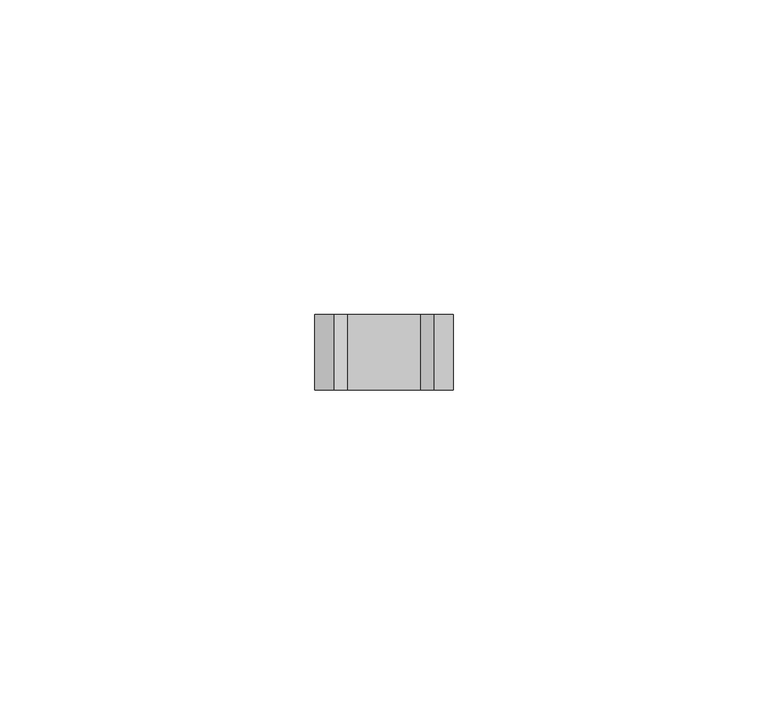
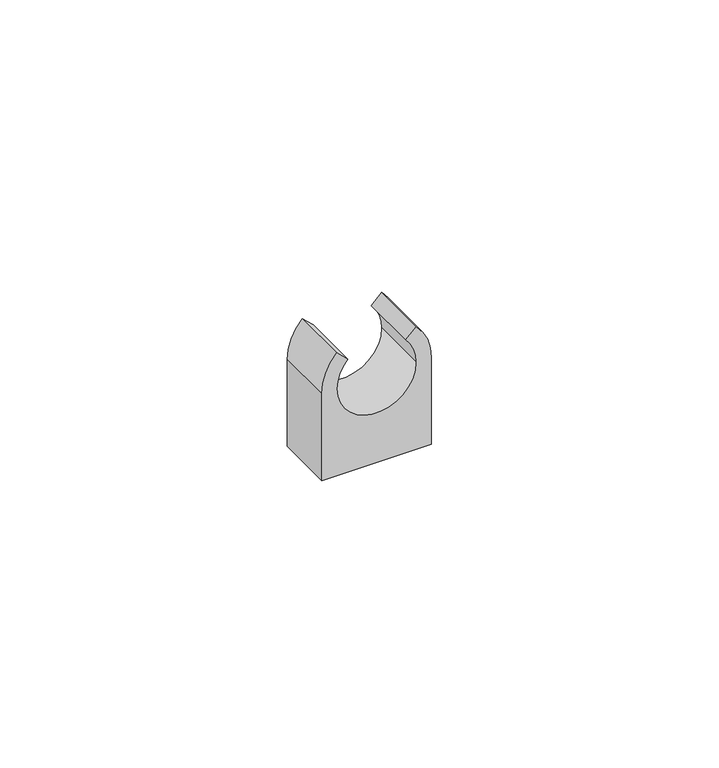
"""IFC4 building model written with IfcOpenShell, lengths in millimetres: cable carrier fitting geometry."""

import ifcopenshell
import ifcopenshell.guid

model = None  # the IFC model being written
_history = None  # IfcOwnerHistory: only IFC2X3 demands one
_inside = {}  # id of a spatial element -> (the spatial element, [elements in it])
_under = {}  # id of a project, library or spatial element -> (it, [spatial elements below it])
_declared = {}  # id of a project -> (the project, [libraries it declares])
_typed = {}  # id of a type object -> (the type object, [elements of that type])
_made_of = {}  # id of a material, layer set ... -> (it, [elements and type objects made of it])


def new_model(schema):
    """Start an empty IFC model of exactly this schema.

    Asked for "IFC4X3", IfcOpenShell would pick the latest addendum, in which some entities
    have other attributes; the version numbers below select the first issue.
    IFC2X3 requires an IfcOwnerHistory on every rooted entity: one is made here for all.
    """
    global model, _history
    if schema == "IFC4X3":
        model = ifcopenshell.file(schema_version=(4, 3, 0, 0))
    else:
        model = ifcopenshell.file(schema=schema)
    _inside.clear()
    _under.clear()
    _declared.clear()
    _typed.clear()
    _made_of.clear()
    _history = None
    if model.schema == "IFC2X3":
        org = make("IfcOrganization", Name="unknown")
        user = make(
            "IfcPersonAndOrganization",
            ThePerson=make("IfcPerson", FamilyName="unknown"),
            TheOrganization=org,
        )
        app = make(
            "IfcApplication",
            ApplicationDeveloper=org,
            Version="unknown",
            ApplicationFullName="unknown",
            ApplicationIdentifier="unknown",
        )
        _history = make(
            "IfcOwnerHistory",
            OwningUser=user,
            OwningApplication=app,
            ChangeAction="ADDED",
            CreationDate=0,
        )
    return model


def make(cls, **values):
    """One entity of the class cls with the attributes given. An attribute that is None is left unset."""
    return model.create_entity(
        cls, **{name: value for name, value in values.items() if value is not None}
    )


def rooted(cls, **values):
    """An entity with a GlobalId (a new one), such as an element, a storey or a relation."""
    return make(cls, GlobalId=ifcopenshell.guid.new(), OwnerHistory=_history, **values)


def si_unit(unit_type, name, prefix=None):
    """IfcSIUnit, for example si_unit("LENGTHUNIT", "METRE", prefix="MILLI")."""
    return make("IfcSIUnit", UnitType=unit_type, Prefix=prefix, Name=name)


def assignment(units):
    """IfcUnitAssignment: the units of a project."""
    return None if units is None else make("IfcUnitAssignment", Units=units)


def point(xyz):
    """IfcCartesianPoint."""
    return None if xyz is None else make("IfcCartesianPoint", Coordinates=xyz)


def direction(xyz):
    """IfcDirection."""
    return None if xyz is None else make("IfcDirection", DirectionRatios=xyz)


def frame(location, z_axis=None, x_axis=None):
    """IfcAxis2Placement3D, a coordinate frame: its origin and axes. An axis left out is left unset."""
    return make(
        "IfcAxis2Placement3D",
        Location=point(location),
        Axis=direction(z_axis),
        RefDirection=direction(x_axis),
    )


def frame_2d(location, x_axis=None):
    """IfcAxis2Placement2D, a coordinate frame in the plane: its origin and x axis."""
    return make(
        "IfcAxis2Placement2D", Location=point(location), RefDirection=direction(x_axis)
    )


def origin():
    """The frame at (0, 0, 0) with its axes left unset."""
    return frame((0.0, 0.0, 0.0))


def place(relative_to, where):
    """IfcLocalPlacement: puts the frame where relative to a parent placement (None: the world)."""
    return make(
        "IfcLocalPlacement", PlacementRelTo=relative_to, RelativePlacement=where
    )


def context(
    kind, dimensions, precision=None, world=None, true_north=None, identifier=None
):
    """IfcGeometricRepresentationContext, for example the 3D "Model" context."""
    return make(
        "IfcGeometricRepresentationContext",
        ContextIdentifier=identifier,
        ContextType=kind,
        CoordinateSpaceDimension=dimensions,
        Precision=precision,
        WorldCoordinateSystem=world,
        TrueNorth=true_north,
    )


def project(units=None, contexts=None):
    """IfcProject with its units and contexts."""
    return rooted(
        "IfcProject",
        Name="project",
        RepresentationContexts=contexts,
        UnitsInContext=assignment(units),
    )


def spatial(cls, under=None, at=None, **own):
    """A site, building, storey or space (cls), placed at a placement, below another one or the project."""
    s = rooted(cls, ObjectPlacement=at, **own)
    if under is not None:
        _under.setdefault(under.id(), (under, []))[1].append(s)
    return s


def polyline(points):
    """IfcPolyline through the points."""
    return make("IfcPolyline", Points=[point(p) for p in points])


def circle_curve(where, radius):
    """IfcCircle in the frame where."""
    return make("IfcCircle", Position=where, Radius=radius)


def trimmed(basis, trim1, trim2, sense, master):
    """IfcTrimmedCurve: the piece of a basis curve between two trims."""
    return make(
        "IfcTrimmedCurve",
        BasisCurve=basis,
        Trim1=trim1,
        Trim2=trim2,
        SenseAgreement=sense,
        MasterRepresentation=master,
    )


def segment(curve, same_sense, transition):
    """IfcCompositeCurveSegment."""
    return make(
        "IfcCompositeCurveSegment",
        Transition=transition,
        SameSense=same_sense,
        ParentCurve=curve,
    )


def composite_curve(segments, self_intersect=None):
    """IfcCompositeCurve: segments joined end to end."""
    return make("IfcCompositeCurve", Segments=segments, SelfIntersect=self_intersect)


def outline(outer, holes=None, kind="AREA"):
    """IfcArbitraryClosedProfileDef: a profile drawn as a closed curve; with holes, ...WithVoids."""
    if holes is None:
        return make("IfcArbitraryClosedProfileDef", ProfileType=kind, OuterCurve=outer)
    return make(
        "IfcArbitraryProfileDefWithVoids",
        ProfileType=kind,
        OuterCurve=outer,
        InnerCurves=holes,
    )


def extrude(swept, where, along, depth):
    """IfcExtrudedAreaSolid: the profile swept, set in the frame where, extruded along a direction by depth."""
    return make(
        "IfcExtrudedAreaSolid",
        SweptArea=swept,
        Position=where,
        ExtrudedDirection=direction(along),
        Depth=depth,
    )


def shape(context_of_items, identifier, shape_type, items):
    """IfcShapeRepresentation: the items that make up one representation, for example the "Body"."""
    return make(
        "IfcShapeRepresentation",
        ContextOfItems=context_of_items,
        RepresentationIdentifier=identifier,
        RepresentationType=shape_type,
        Items=items,
    )


def source(mapping_origin, context_of_items, identifier, shape_type, items):
    """IfcRepresentationMap: a shape defined once, which mapped items show again and again."""
    return make(
        "IfcRepresentationMap",
        MappingOrigin=mapping_origin,
        MappedRepresentation=shape(context_of_items, identifier, shape_type, items),
    )


def transform(
    local_origin,
    x_axis=None,
    y_axis=None,
    z_axis=None,
    scale=None,
    scale2=None,
    scale3=None,
    uniform=True,
):
    """IfcCartesianTransformationOperator3D, or its non-uniform kind. x_axis, y_axis, z_axis: its Axis1, 2, 3."""
    if uniform:
        return make(
            "IfcCartesianTransformationOperator3D",
            Axis1=direction(x_axis),
            Axis2=direction(y_axis),
            LocalOrigin=point(local_origin),
            Scale=scale,
            Axis3=direction(z_axis),
        )
    return make(
        "IfcCartesianTransformationOperator3DnonUniform",
        Axis1=direction(x_axis),
        Axis2=direction(y_axis),
        LocalOrigin=point(local_origin),
        Scale=scale,
        Axis3=direction(z_axis),
        Scale2=scale2,
        Scale3=scale3,
    )


def mapped(mapping_source, mapping_target):
    """IfcMappedItem: shows the shape of a source again, moved by a transform."""
    return make(
        "IfcMappedItem", MappingSource=mapping_source, MappingTarget=mapping_target
    )


def made_of(thing, what):
    """Note that an element or type object is made of a material, layer set ...; save() writes the relation."""
    if what is not None:
        _made_of.setdefault(what.id(), (what, []))[1].append(thing)
    return thing


def element(
    cls,
    number,
    at=None,
    inside=None,
    cuts=None,
    type_object=None,
    material=None,
    context=None,
    identifier="Body",
    shape_type=None,
    held_by="IfcProductDefinitionShape",
    body=None,
    shapes=None,
    **own,
):
    """One element of the class cls, such as IfcWall. Its Tag is "e" and its number.

    at: its placement. inside: the storey or other place that contains it. cuts: it is an
    opening in that element (IfcRelVoidsElement). A single representation is given by context,
    identifier, shape_type and body (its items); several are given by shapes. held_by: the class
    of the entity that holds the representations. save() writes the other relations.
    """
    e = rooted(cls, Tag="e%d" % number, ObjectPlacement=at, **own)
    if body is not None:
        shapes = [shape(context, identifier, shape_type, body)]
    if shapes is not None:
        e.Representation = make(held_by, Representations=shapes)
    if inside is not None:
        _inside.setdefault(inside.id(), (inside, []))[1].append(e)
    if cuts is not None:
        rooted(
            "IfcRelVoidsElement", RelatingBuildingElement=cuts, RelatedOpeningElement=e
        )
    if type_object is not None:
        _typed.setdefault(type_object.id(), (type_object, []))[1].append(e)
    return made_of(e, material)


def aggregate(whole, parts):
    """IfcRelAggregates: a whole, such as a stair, and the parts it consists of."""
    return rooted("IfcRelAggregates", RelatingObject=whole, RelatedObjects=parts)


def save(model, path):
    """Write the relations noted so far, then the file.

    IfcRelAggregates (storeys below a building ...), IfcRelContainedInSpatialStructure (elements
    in a storey), IfcRelDefinesByType, IfcRelAssociatesMaterial and IfcRelDeclares: one each for
    every whole, place, type object, material and project.
    """
    for whole, parts in _under.values():
        aggregate(whole, parts)
    for where, things in _inside.values():
        rooted(
            "IfcRelContainedInSpatialStructure",
            RelatedElements=things,
            RelatingStructure=where,
        )
    for kind, things in _typed.values():
        rooted("IfcRelDefinesByType", RelatedObjects=things, RelatingType=kind)
    for what, things in _made_of.values():
        rooted("IfcRelAssociatesMaterial", RelatedObjects=things, RelatingMaterial=what)
    for by, libraries in _declared.values():
        rooted("IfcRelDeclares", RelatingContext=by, RelatedDefinitions=libraries)
    model.write(path)


def cable_carrier_fitting_0964ab42(model_context):
    return source(origin(), model_context, "Body", "SweptSolid", [
        extrude(outline(composite_curve([segment(polyline([(0.0, -11.0), (0.0, 11.0), (18.5, 11.0)]), True, "CONTINUOUS"), segment(trimmed(circle_curve(frame_2d((18.5, 0.0)), 11.0), [point((18.5, 11.0))], [point((26.0498344, 8.0))], False, "CARTESIAN"), True, "CONTINUOUS"), segment(polyline([(26.0498344, 8.0), (23.9907887, 5.8181818)]), True, "CONTINUOUS"), segment(trimmed(circle_curve(frame_2d((18.5, 0.0)), 8.0), [point((23.9907887, 5.8181818))], [point((18.5, 8.0))], True, "CARTESIAN"), True, "CONTINUOUS"), segment(trimmed(circle_curve(frame_2d((18.5, 0.0)), 8.0), [point((18.5, 8.0))], [point((18.5, -8.0))], True, "CARTESIAN"), True, "CONTINUOUS"), segment(trimmed(circle_curve(frame_2d((18.5, 0.0)), 8.0), [point((18.5, -8.0))], [point((23.9907887, -5.8181818))], True, "CARTESIAN"), True, "CONTINUOUS"), segment(polyline([(23.9907887, -5.8181818), (26.0498344, -8.0)]), True, "CONTINUOUS"), segment(trimmed(circle_curve(frame_2d((18.5, 0.0)), 11.0), [point((26.0498344, -8.0))], [point((18.5, -11.0))], False, "CARTESIAN"), True, "CONTINUOUS"), segment(polyline([(18.5, -11.0), (0.0, -11.0)]), True, "CONTINUOUS")], self_intersect=False)), frame((0.0, -6.0, 0.0), z_axis=(0.0, 1.0, 0.0), x_axis=(0.0, 0.0, 1.0)), (0.0, 0.0, 1.0), 12.0),
    ])


if __name__ == "__main__":
    model = new_model("IFC4")
    model_context = context("Model", 3, world=origin())
    ifc_project = project(units=[si_unit("LENGTHUNIT", "METRE", prefix="MILLI")], contexts=[model_context])
    site = spatial("IfcSite", under=ifc_project)
    building = spatial("IfcBuilding", under=site)
    placement = place(None, origin())
    cable_carrier_fitting_shape = cable_carrier_fitting_0964ab42(model_context)
    element("IfcCableCarrierFitting", 1, at=placement, inside=building, context=model_context, shape_type="MappedRepresentation", body=[
        mapped(cable_carrier_fitting_shape, transform((0.0, 0.0, 0.0), x_axis=(1.0, 0.0, 0.0), y_axis=(0.0, 1.0, 0.0), z_axis=(0.0, 0.0, 1.0))),
    ])
    save(model, "model.ifc")
